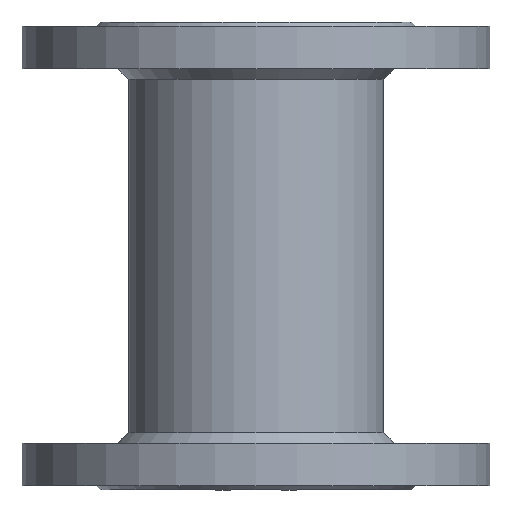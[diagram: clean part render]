
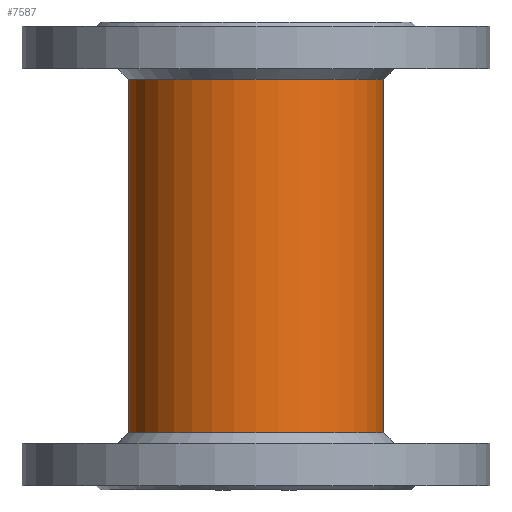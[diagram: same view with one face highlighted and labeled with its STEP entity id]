
A CAD part, front view. The second image highlights one B-rep face of the part: STEP entity #7587.
In plain terms, the highlighted cylindrical face has radius 60 mm (diameter 120 mm), a full revolution.
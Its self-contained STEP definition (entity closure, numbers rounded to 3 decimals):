
#770=CIRCLE('',#27007,60.);
#771=CIRCLE('',#27008,60.);
#3065=LINE('',#44423,#5848);
#3066=LINE('',#44436,#5849);
#5848=VECTOR('',#31875,1.);
#5849=VECTOR('',#31876,1.);
#5970=CYLINDRICAL_SURFACE('',#27009,60.);
#6198=FACE_BOUND('',#11063,.T.);
#6199=FACE_BOUND('',#11064,.T.);
#6200=FACE_BOUND('',#11065,.T.);
#7587=ADVANCED_FACE('',(#6198,#6199,#6200),#5970,.T.);
#11063=EDGE_LOOP('',(#18268));
#11064=EDGE_LOOP('',(#18269));
#11065=EDGE_LOOP('',(#18270,#18271,#18272,#18273));
#18268=ORIENTED_EDGE('',*,*,#24358,.T.);
#18269=ORIENTED_EDGE('',*,*,#24359,.T.);
#18270=ORIENTED_EDGE('',*,*,#24360,.T.);
#18271=ORIENTED_EDGE('',*,*,#24354,.F.);
#18272=ORIENTED_EDGE('',*,*,#24361,.T.);
#18273=ORIENTED_EDGE('',*,*,#24356,.F.);
#20750=VERTEX_POINT('',#44421);
#20751=VERTEX_POINT('',#44422);
#20752=VERTEX_POINT('',#44424);
#20753=VERTEX_POINT('',#44435);
#20755=VERTEX_POINT('',#44442);
#20756=VERTEX_POINT('',#44444);
#24354=EDGE_CURVE('',#20751,#20752,#3065,.T.);
#24356=EDGE_CURVE('',#20753,#20750,#3066,.T.);
#24358=EDGE_CURVE('',#20755,#20755,#770,.T.);
#24359=EDGE_CURVE('',#20756,#20756,#771,.T.);
#24360=EDGE_CURVE('',#20753,#20752,#25979,.T.);
#24361=EDGE_CURVE('',#20751,#20750,#25980,.T.);
#25979=B_SPLINE_CURVE_WITH_KNOTS('',3,(#44445,#44446,#44447,#44448,#44449,
#44450,#44451,#44452,#44453,#44454),.UNSPECIFIED.,.F.,.F.,(4,2,2,2,4),(0.,
0.25,0.5,0.75,1.),.UNSPECIFIED.);
#25980=B_SPLINE_CURVE_WITH_KNOTS('',3,(#44455,#44456,#44457,#44458,#44459,
#44460,#44461,#44462,#44463,#44464),.UNSPECIFIED.,.F.,.F.,(4,2,2,2,4),(0.,
0.25,0.5,0.75,1.),.UNSPECIFIED.);
#27007=AXIS2_PLACEMENT_3D('',#44441,#31883,#31884);
#27008=AXIS2_PLACEMENT_3D('',#44443,#31885,#31886);
#27009=AXIS2_PLACEMENT_3D('',#44465,#31887,#31888);
#31875=DIRECTION('',(0.,0.,-1.));
#31876=DIRECTION('',(0.,0.,1.));
#31883=DIRECTION('',(0.,0.,1.));
#31884=DIRECTION('',(0.,-1.,0.));
#31885=DIRECTION('',(0.,0.,-1.));
#31886=DIRECTION('',(0.,1.,0.));
#31887=DIRECTION('',(0.,0.,-1.));
#31888=DIRECTION('',(0.,-1.,0.));
#44421=CARTESIAN_POINT('',(-15.362,6.,3.898));
#44422=CARTESIAN_POINT('',(15.362,6.,3.899));
#44423=CARTESIAN_POINT('',(15.362,6.,-916.158));
#44424=CARTESIAN_POINT('',(15.362,6.,-3.908));
#44435=CARTESIAN_POINT('',(-15.362,6.,-3.902));
#44436=CARTESIAN_POINT('',(-15.362,6.,-916.158));
#44441=CARTESIAN_POINT('',(0.,-52.,-102.758));
#44442=CARTESIAN_POINT('',(0.,-112.,-102.758));
#44443=CARTESIAN_POINT('',(0.,-52.,63.242));
#44444=CARTESIAN_POINT('',(0.,8.,63.242));
#44445=CARTESIAN_POINT('',(-15.362,6.,-3.902));
#44446=CARTESIAN_POINT('',(-14.453,6.241,-7.257));
#44447=CARTESIAN_POINT('',(-12.415,6.769,-10.153));
#44448=CARTESIAN_POINT('',(-6.865,7.672,-14.25));
#44449=CARTESIAN_POINT('',(-3.476,7.999,-15.349));
#44450=CARTESIAN_POINT('',(3.453,8.001,-15.356));
#44451=CARTESIAN_POINT('',(6.865,7.671,-14.243));
#44452=CARTESIAN_POINT('',(12.382,6.775,-10.185));
#44453=CARTESIAN_POINT('',(14.448,6.242,-7.26));
#44454=CARTESIAN_POINT('',(15.362,6.,-3.908));
#44455=CARTESIAN_POINT('',(15.362,6.,3.899));
#44456=CARTESIAN_POINT('',(14.453,6.241,7.254));
#44457=CARTESIAN_POINT('',(12.416,6.769,10.152));
#44458=CARTESIAN_POINT('',(6.863,7.673,14.249));
#44459=CARTESIAN_POINT('',(3.474,8.,15.352));
#44460=CARTESIAN_POINT('',(-3.458,8.,15.353));
#44461=CARTESIAN_POINT('',(-6.871,7.671,14.243));
#44462=CARTESIAN_POINT('',(-12.387,6.774,10.177));
#44463=CARTESIAN_POINT('',(-14.455,6.24,7.252));
#44464=CARTESIAN_POINT('',(-15.362,6.,3.898));
#44465=CARTESIAN_POINT('',(0.,-52.,-916.158));
